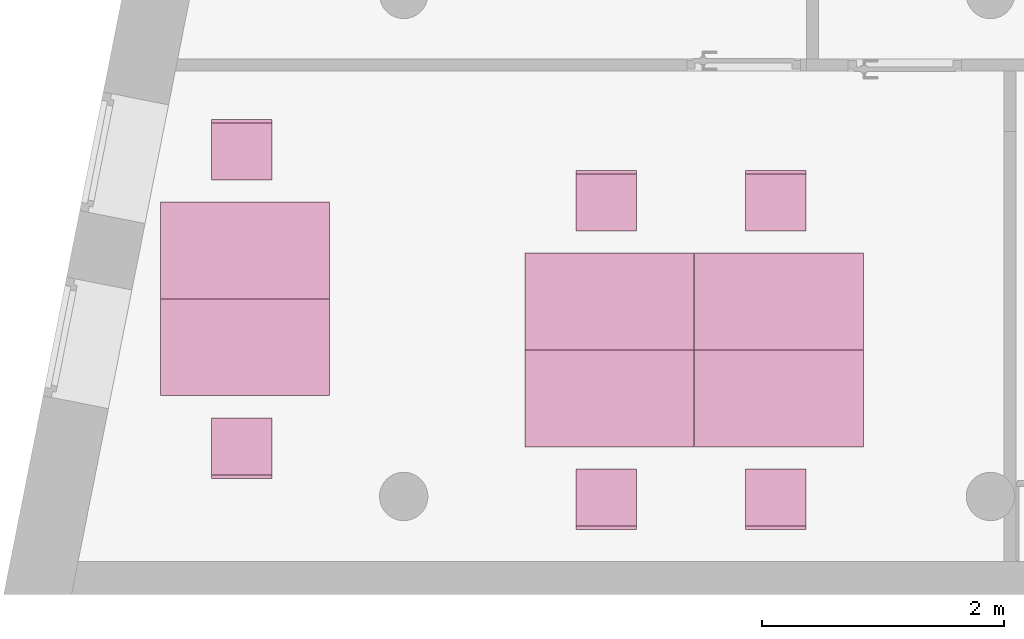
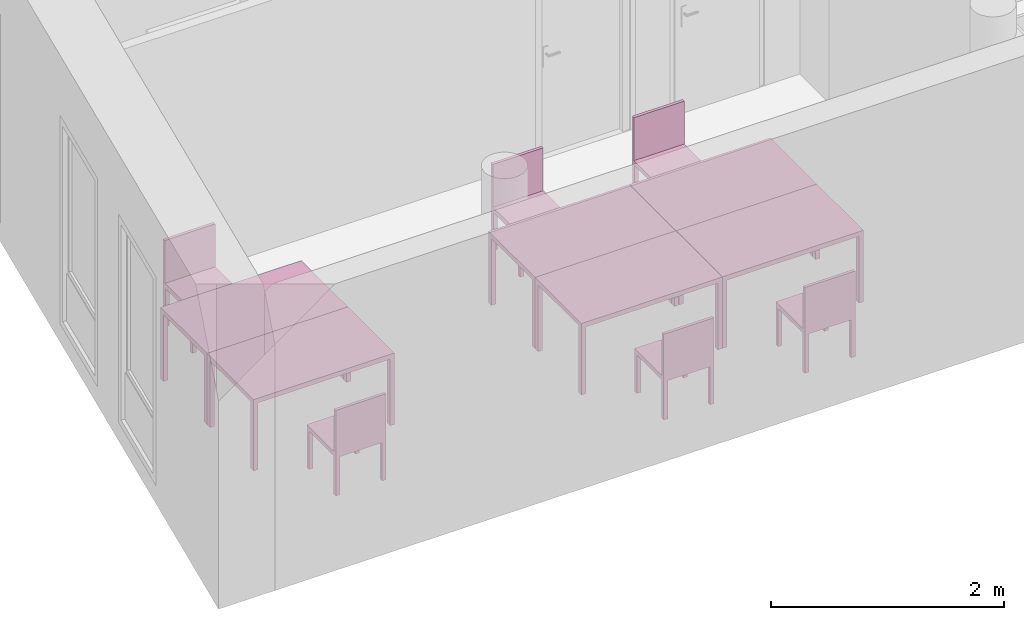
"""IFC4 building model written with IfcOpenShell, lengths in metres."""

from ifc_helpers import new_model, entity, si_unit, converted_unit, derived_unit, frame, origin, place, context, subcontext, project, spatial, faceted_brep, element, save


model = new_model("IFC4")

# Units and contexts
model_context = context("Model", 3, precision=1e-05, world=origin())
body_context = subcontext(model_context, "Body", "Model", "MODEL_VIEW")
ifc_project = project(units=[si_unit("LENGTHUNIT", "METRE"), si_unit("AREAUNIT", "SQUARE_METRE"), si_unit("VOLUMEUNIT", "CUBIC_METRE"), si_unit("MASSUNIT", "GRAM", prefix="KILO"), converted_unit("PLANEANGLEUNIT", "DEGREE", entity("IfcPlaneAngleMeasure", 0.0174532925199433), si_unit("PLANEANGLEUNIT", "RADIAN"), dimensions=[0, 0, 0, 0, 0, 0, 0]), derived_unit("THERMALTRANSMITTANCEUNIT", [(si_unit("POWERUNIT", "WATT"), 1), (si_unit("THERMODYNAMICTEMPERATUREUNIT", "KELVIN"), -1), (si_unit("LENGTHUNIT", "METRE"), -2)]), derived_unit("VOLUMETRICFLOWRATEUNIT", [(si_unit("LENGTHUNIT", "METRE"), 3), (converted_unit("TIMEUNIT", "hour", entity("IfcTimeMeasure", 3600.0), si_unit("TIMEUNIT", "SECOND"), dimensions=[0, 0, 1, 0, 0, 0, 0]), -1), (si_unit("LENGTHUNIT", "METRE"), -1)])], contexts=[model_context])

# Building, storeys
building_placement = place(None, origin())
building = spatial("IfcBuilding", under=ifc_project, at=building_placement, Name="HABITATGE PLURIFAMILIAR", CompositionType="ELEMENT")
storey_1_placement = place(building_placement, frame((0.0, 0.0, 12.27)))
storey_1 = spatial("IfcBuildingStorey", under=building, at=storey_1_placement, Name="PLANTA TERCERA", CompositionType="ELEMENT", Elevation=12.27)
storey_2_placement = place(storey_1_placement, frame((0.0, 0.0, 9.26)))
storey_2 = spatial("IfcBuildingStorey", under=storey_1, at=storey_2_placement, Name="NOU", CompositionType="PARTIAL")

# Furniture
furniture_1_placement = place(storey_2_placement, frame((398.97731256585, 14.4826028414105, -9.3599999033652)))
element("IfcFurniture", 1, at=furniture_1_placement, inside=storey_2, Name="Taula 140X80_P3", context=body_context, shape_type="Brep", body=[
    faceted_brep([(0.04375, 0.750069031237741, 0.0), (0.04375, 0.800069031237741, 0.0), (0.0, 0.800069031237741, 0.0), (0.0, 0.750069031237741, 0.0), (0.04375, 0.800069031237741, 0.7), (0.04375, 0.750069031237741, 0.7), (0.0, 0.750069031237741, 0.7), (0.0, 0.800069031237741, 0.7)], [[[0, 1, 2, 3]], [[4, 5, 6, 7]], [[1, 0, 5, 4]], [[2, 1, 4, 7]], [[3, 2, 7, 6]], [[0, 3, 6, 5]]], orient=[[False], [False], [False], [False], [False], [False]]),
    faceted_brep([(0.04375, 0.0, 0.0), (0.04375, 0.05, 0.0), (0.0, 0.05, 0.0), (0.0, 0.0, 0.0), (0.04375, 0.05, 0.7), (0.04375, 0.0, 0.7), (0.0, 0.0, 0.7), (0.0, 0.05, 0.7)], [[[0, 1, 2, 3]], [[4, 5, 6, 7]], [[1, 0, 5, 4]], [[2, 1, 4, 7]], [[3, 2, 7, 6]], [[0, 3, 6, 5]]], orient=[[False], [False], [False], [False], [False], [False]]),
    faceted_brep([(1.39732768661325, 0.0, 0.7), (1.39732768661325, 0.800069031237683, 0.7), (0.0, 0.800069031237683, 0.7), (0.0, 0.0, 0.7), (1.39732768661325, 0.800069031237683, 0.75), (1.39732768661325, 0.0, 0.75), (0.0, 0.0, 0.75), (0.0, 0.800069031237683, 0.75)], [[[0, 1, 2, 3]], [[4, 5, 6, 7]], [[1, 0, 5, 4]], [[2, 1, 4, 7]], [[3, 2, 7, 6]], [[0, 3, 6, 5]]], orient=[[False], [False], [False], [False], [False], [False]]),
    faceted_brep([(1.39732768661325, 0.750069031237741, 0.0), (1.39732768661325, 0.800069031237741, 0.0), (1.35357768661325, 0.800069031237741, 0.0), (1.35357768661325, 0.750069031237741, 0.0), (1.39732768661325, 0.800069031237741, 0.7), (1.39732768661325, 0.750069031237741, 0.7), (1.35357768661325, 0.750069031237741, 0.7), (1.35357768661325, 0.800069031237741, 0.7)], [[[0, 1, 2, 3]], [[4, 5, 6, 7]], [[1, 0, 5, 4]], [[2, 1, 4, 7]], [[3, 2, 7, 6]], [[0, 3, 6, 5]]], orient=[[False], [False], [False], [False], [False], [False]]),
    faceted_brep([(1.39732768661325, 0.0, 0.0), (1.39732768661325, 0.05, 0.0), (1.35357768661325, 0.05, 0.0), (1.35357768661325, 0.0, 0.0), (1.39732768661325, 0.05, 0.7), (1.39732768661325, 0.0, 0.7), (1.35357768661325, 0.0, 0.7), (1.35357768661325, 0.05, 0.7)], [[[0, 1, 2, 3]], [[4, 5, 6, 7]], [[1, 0, 5, 4]], [[2, 1, 4, 7]], [[3, 2, 7, 6]], [[0, 3, 6, 5]]], orient=[[False], [False], [False], [False], [False], [False]]),
])
furniture_2_placement = place(storey_2_placement, frame((398.97731256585, 15.2826718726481, -9.3599999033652)))
element("IfcFurniture", 2, at=furniture_2_placement, inside=storey_2, Name="Taula 140X80_P3", context=body_context, shape_type="Brep", body=[
    faceted_brep([(0.04375, 0.05, 0.0), (0.0, 0.05, 0.0), (0.0, 0.0, 0.0), (0.04375, 0.0, 0.0), (0.04375, 0.0, 0.7), (0.0, 0.0, 0.7), (0.0, 0.05, 0.7), (0.04375, 0.05, 0.7)], [[[0, 1, 2, 3]], [[4, 5, 6, 7]], [[3, 4, 7, 0]], [[2, 5, 4, 3]], [[1, 6, 5, 2]], [[0, 7, 6, 1]]], orient=[[False], [False], [False], [False], [False], [False]]),
    faceted_brep([(0.04375, 0.800069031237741, 0.0), (0.0, 0.800069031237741, 0.0), (0.0, 0.750069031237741, 0.0), (0.04375, 0.750069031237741, 0.0), (0.04375, 0.750069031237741, 0.7), (0.0, 0.750069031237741, 0.7), (0.0, 0.800069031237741, 0.7), (0.04375, 0.800069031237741, 0.7)], [[[0, 1, 2, 3]], [[4, 5, 6, 7]], [[3, 4, 7, 0]], [[2, 5, 4, 3]], [[1, 6, 5, 2]], [[0, 7, 6, 1]]], orient=[[False], [False], [False], [False], [False], [False]]),
    faceted_brep([(1.39732768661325, 0.800069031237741, 0.7), (0.0, 0.800069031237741, 0.7), (0.0, 0.0, 0.7), (1.39732768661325, 0.0, 0.7), (1.39732768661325, 0.0, 0.75), (0.0, 0.0, 0.75), (0.0, 0.800069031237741, 0.75), (1.39732768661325, 0.800069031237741, 0.75)], [[[0, 1, 2, 3]], [[4, 5, 6, 7]], [[3, 4, 7, 0]], [[2, 5, 4, 3]], [[1, 6, 5, 2]], [[0, 7, 6, 1]]], orient=[[False], [False], [False], [False], [False], [False]]),
    faceted_brep([(1.39732768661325, 0.05, 0.0), (1.35357768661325, 0.05, 0.0), (1.35357768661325, 0.0, 0.0), (1.39732768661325, 0.0, 0.0), (1.39732768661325, 0.0, 0.7), (1.35357768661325, 0.0, 0.7), (1.35357768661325, 0.05, 0.7), (1.39732768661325, 0.05, 0.7)], [[[0, 1, 2, 3]], [[4, 5, 6, 7]], [[3, 4, 7, 0]], [[2, 5, 4, 3]], [[1, 6, 5, 2]], [[0, 7, 6, 1]]], orient=[[False], [False], [False], [False], [False], [False]]),
    faceted_brep([(1.39732768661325, 0.800069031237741, 0.0), (1.35357768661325, 0.800069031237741, 0.0), (1.35357768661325, 0.750069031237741, 0.0), (1.39732768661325, 0.750069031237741, 0.0), (1.39732768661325, 0.750069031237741, 0.7), (1.35357768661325, 0.750069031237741, 0.7), (1.35357768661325, 0.800069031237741, 0.7), (1.39732768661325, 0.800069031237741, 0.7)], [[[0, 1, 2, 3]], [[4, 5, 6, 7]], [[3, 4, 7, 0]], [[2, 5, 4, 3]], [[1, 6, 5, 2]], [[0, 7, 6, 1]]], orient=[[False], [False], [False], [False], [False], [False]]),
])
furniture_3_placement = place(storey_2_placement, frame((401.988710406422, 14.0600117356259, -9.3599999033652)))
element("IfcFurniture", 3, at=furniture_3_placement, inside=storey_2, Name="Taula 140X80_P3", context=body_context, shape_type="Brep", body=[
    faceted_brep([(0.04375, 0.750069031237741, 0.0), (0.04375, 0.800069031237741, 0.0), (0.0, 0.800069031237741, 0.0), (0.0, 0.750069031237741, 0.0), (0.04375, 0.800069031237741, 0.7), (0.04375, 0.750069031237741, 0.7), (0.0, 0.750069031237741, 0.7), (0.0, 0.800069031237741, 0.7)], [[[0, 1, 2, 3]], [[4, 5, 6, 7]], [[1, 0, 5, 4]], [[2, 1, 4, 7]], [[3, 2, 7, 6]], [[0, 3, 6, 5]]], orient=[[False], [False], [False], [False], [False], [False]]),
    faceted_brep([(0.04375, 0.0, 0.0), (0.04375, 0.05, 0.0), (0.0, 0.05, 0.0), (0.0, 0.0, 0.0), (0.04375, 0.05, 0.7), (0.04375, 0.0, 0.7), (0.0, 0.0, 0.7), (0.0, 0.05, 0.7)], [[[0, 1, 2, 3]], [[4, 5, 6, 7]], [[1, 0, 5, 4]], [[2, 1, 4, 7]], [[3, 2, 7, 6]], [[0, 3, 6, 5]]], orient=[[False], [False], [False], [False], [False], [False]]),
    faceted_brep([(1.39732768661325, 0.0, 0.7), (1.39732768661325, 0.800069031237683, 0.7), (0.0, 0.800069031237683, 0.7), (0.0, 0.0, 0.7), (1.39732768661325, 0.800069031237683, 0.75), (1.39732768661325, 0.0, 0.75), (0.0, 0.0, 0.75), (0.0, 0.800069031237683, 0.75)], [[[0, 1, 2, 3]], [[4, 5, 6, 7]], [[1, 0, 5, 4]], [[2, 1, 4, 7]], [[3, 2, 7, 6]], [[0, 3, 6, 5]]], orient=[[False], [False], [False], [False], [False], [False]]),
    faceted_brep([(1.39732768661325, 0.750069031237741, 0.0), (1.39732768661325, 0.800069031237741, 0.0), (1.35357768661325, 0.800069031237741, 0.0), (1.35357768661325, 0.750069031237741, 0.0), (1.39732768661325, 0.800069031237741, 0.7), (1.39732768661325, 0.750069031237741, 0.7), (1.35357768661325, 0.750069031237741, 0.7), (1.35357768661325, 0.800069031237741, 0.7)], [[[0, 1, 2, 3]], [[4, 5, 6, 7]], [[1, 0, 5, 4]], [[2, 1, 4, 7]], [[3, 2, 7, 6]], [[0, 3, 6, 5]]], orient=[[False], [False], [False], [False], [False], [False]]),
    faceted_brep([(1.39732768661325, 0.0, 0.0), (1.39732768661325, 0.05, 0.0), (1.35357768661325, 0.05, 0.0), (1.35357768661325, 0.0, 0.0), (1.39732768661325, 0.05, 0.7), (1.39732768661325, 0.0, 0.7), (1.35357768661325, 0.0, 0.7), (1.35357768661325, 0.05, 0.7)], [[[0, 1, 2, 3]], [[4, 5, 6, 7]], [[1, 0, 5, 4]], [[2, 1, 4, 7]], [[3, 2, 7, 6]], [[0, 3, 6, 5]]], orient=[[False], [False], [False], [False], [False], [False]]),
])
furniture_4_placement = place(storey_2_placement, frame((401.988710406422, 14.8600807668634, -9.3599999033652)))
element("IfcFurniture", 4, at=furniture_4_placement, inside=storey_2, Name="Taula 140X80_P3", context=body_context, shape_type="Brep", body=[
    faceted_brep([(0.04375, 0.05, 0.0), (0.0, 0.05, 0.0), (0.0, 0.0, 0.0), (0.04375, 0.0, 0.0), (0.04375, 0.0, 0.7), (0.0, 0.0, 0.7), (0.0, 0.05, 0.7), (0.04375, 0.05, 0.7)], [[[0, 1, 2, 3]], [[4, 5, 6, 7]], [[3, 4, 7, 0]], [[2, 5, 4, 3]], [[1, 6, 5, 2]], [[0, 7, 6, 1]]], orient=[[False], [False], [False], [False], [False], [False]]),
    faceted_brep([(0.04375, 0.800069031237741, 0.0), (0.0, 0.800069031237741, 0.0), (0.0, 0.750069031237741, 0.0), (0.04375, 0.750069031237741, 0.0), (0.04375, 0.750069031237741, 0.7), (0.0, 0.750069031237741, 0.7), (0.0, 0.800069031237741, 0.7), (0.04375, 0.800069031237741, 0.7)], [[[0, 1, 2, 3]], [[4, 5, 6, 7]], [[3, 4, 7, 0]], [[2, 5, 4, 3]], [[1, 6, 5, 2]], [[0, 7, 6, 1]]], orient=[[False], [False], [False], [False], [False], [False]]),
    faceted_brep([(1.39732768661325, 0.800069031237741, 0.7), (0.0, 0.800069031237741, 0.7), (0.0, 0.0, 0.7), (1.39732768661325, 0.0, 0.7), (1.39732768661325, 0.0, 0.75), (0.0, 0.0, 0.75), (0.0, 0.800069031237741, 0.75), (1.39732768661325, 0.800069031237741, 0.75)], [[[0, 1, 2, 3]], [[4, 5, 6, 7]], [[3, 4, 7, 0]], [[2, 5, 4, 3]], [[1, 6, 5, 2]], [[0, 7, 6, 1]]], orient=[[False], [False], [False], [False], [False], [False]]),
    faceted_brep([(1.39732768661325, 0.05, 0.0), (1.35357768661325, 0.05, 0.0), (1.35357768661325, 0.0, 0.0), (1.39732768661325, 0.0, 0.0), (1.39732768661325, 0.0, 0.7), (1.35357768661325, 0.0, 0.7), (1.35357768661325, 0.05, 0.7), (1.39732768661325, 0.05, 0.7)], [[[0, 1, 2, 3]], [[4, 5, 6, 7]], [[3, 4, 7, 0]], [[2, 5, 4, 3]], [[1, 6, 5, 2]], [[0, 7, 6, 1]]], orient=[[False], [False], [False], [False], [False], [False]]),
    faceted_brep([(1.39732768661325, 0.800069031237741, 0.0), (1.35357768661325, 0.800069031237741, 0.0), (1.35357768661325, 0.750069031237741, 0.0), (1.39732768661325, 0.750069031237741, 0.0), (1.39732768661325, 0.750069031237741, 0.7), (1.35357768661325, 0.750069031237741, 0.7), (1.35357768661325, 0.800069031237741, 0.7), (1.39732768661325, 0.800069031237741, 0.7)], [[[0, 1, 2, 3]], [[4, 5, 6, 7]], [[3, 4, 7, 0]], [[2, 5, 4, 3]], [[1, 6, 5, 2]], [[0, 7, 6, 1]]], orient=[[False], [False], [False], [False], [False], [False]]),
])
furniture_5_placement = place(storey_2_placement, frame((403.389889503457, 14.0600117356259, -9.3599999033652)))
element("IfcFurniture", 5, at=furniture_5_placement, inside=storey_2, Name="Taula 140X80_P3", context=body_context, shape_type="Brep", body=[
    faceted_brep([(0.04375, 0.750069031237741, 0.0), (0.04375, 0.800069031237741, 0.0), (0.0, 0.800069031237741, 0.0), (0.0, 0.750069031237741, 0.0), (0.04375, 0.800069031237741, 0.7), (0.04375, 0.750069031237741, 0.7), (0.0, 0.750069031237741, 0.7), (0.0, 0.800069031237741, 0.7)], [[[0, 1, 2, 3]], [[4, 5, 6, 7]], [[1, 0, 5, 4]], [[2, 1, 4, 7]], [[3, 2, 7, 6]], [[0, 3, 6, 5]]], orient=[[False], [False], [False], [False], [False], [False]]),
    faceted_brep([(0.04375, 0.0, 0.0), (0.04375, 0.05, 0.0), (0.0, 0.05, 0.0), (0.0, 0.0, 0.0), (0.04375, 0.05, 0.7), (0.04375, 0.0, 0.7), (0.0, 0.0, 0.7), (0.0, 0.05, 0.7)], [[[0, 1, 2, 3]], [[4, 5, 6, 7]], [[1, 0, 5, 4]], [[2, 1, 4, 7]], [[3, 2, 7, 6]], [[0, 3, 6, 5]]], orient=[[False], [False], [False], [False], [False], [False]]),
    faceted_brep([(1.39732768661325, 0.0, 0.7), (1.39732768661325, 0.800069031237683, 0.7), (0.0, 0.800069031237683, 0.7), (0.0, 0.0, 0.7), (1.39732768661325, 0.800069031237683, 0.75), (1.39732768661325, 0.0, 0.75), (0.0, 0.0, 0.75), (0.0, 0.800069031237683, 0.75)], [[[0, 1, 2, 3]], [[4, 5, 6, 7]], [[1, 0, 5, 4]], [[2, 1, 4, 7]], [[3, 2, 7, 6]], [[0, 3, 6, 5]]], orient=[[False], [False], [False], [False], [False], [False]]),
    faceted_brep([(1.39732768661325, 0.750069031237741, 0.0), (1.39732768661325, 0.800069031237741, 0.0), (1.35357768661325, 0.800069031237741, 0.0), (1.35357768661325, 0.750069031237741, 0.0), (1.39732768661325, 0.800069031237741, 0.7), (1.39732768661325, 0.750069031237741, 0.7), (1.35357768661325, 0.750069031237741, 0.7), (1.35357768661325, 0.800069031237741, 0.7)], [[[0, 1, 2, 3]], [[4, 5, 6, 7]], [[1, 0, 5, 4]], [[2, 1, 4, 7]], [[3, 2, 7, 6]], [[0, 3, 6, 5]]], orient=[[False], [False], [False], [False], [False], [False]]),
    faceted_brep([(1.39732768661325, 0.0, 0.0), (1.39732768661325, 0.05, 0.0), (1.35357768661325, 0.05, 0.0), (1.35357768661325, 0.0, 0.0), (1.39732768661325, 0.05, 0.7), (1.39732768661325, 0.0, 0.7), (1.35357768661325, 0.0, 0.7), (1.35357768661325, 0.05, 0.7)], [[[0, 1, 2, 3]], [[4, 5, 6, 7]], [[1, 0, 5, 4]], [[2, 1, 4, 7]], [[3, 2, 7, 6]], [[0, 3, 6, 5]]], orient=[[False], [False], [False], [False], [False], [False]]),
])
furniture_6_placement = place(storey_2_placement, frame((403.389889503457, 14.8600807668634, -9.3599999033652)))
element("IfcFurniture", 6, at=furniture_6_placement, inside=storey_2, Name="Taula 140X80_P3", context=body_context, shape_type="Brep", body=[
    faceted_brep([(0.04375, 0.05, 0.0), (0.0, 0.05, 0.0), (0.0, 0.0, 0.0), (0.04375, 0.0, 0.0), (0.04375, 0.0, 0.7), (0.0, 0.0, 0.7), (0.0, 0.05, 0.7), (0.04375, 0.05, 0.7)], [[[0, 1, 2, 3]], [[4, 5, 6, 7]], [[3, 4, 7, 0]], [[2, 5, 4, 3]], [[1, 6, 5, 2]], [[0, 7, 6, 1]]], orient=[[False], [False], [False], [False], [False], [False]]),
    faceted_brep([(0.04375, 0.800069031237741, 0.0), (0.0, 0.800069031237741, 0.0), (0.0, 0.750069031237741, 0.0), (0.04375, 0.750069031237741, 0.0), (0.04375, 0.750069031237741, 0.7), (0.0, 0.750069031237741, 0.7), (0.0, 0.800069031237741, 0.7), (0.04375, 0.800069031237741, 0.7)], [[[0, 1, 2, 3]], [[4, 5, 6, 7]], [[3, 4, 7, 0]], [[2, 5, 4, 3]], [[1, 6, 5, 2]], [[0, 7, 6, 1]]], orient=[[False], [False], [False], [False], [False], [False]]),
    faceted_brep([(1.39732768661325, 0.800069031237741, 0.7), (0.0, 0.800069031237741, 0.7), (0.0, 0.0, 0.7), (1.39732768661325, 0.0, 0.7), (1.39732768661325, 0.0, 0.75), (0.0, 0.0, 0.75), (0.0, 0.800069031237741, 0.75), (1.39732768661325, 0.800069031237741, 0.75)], [[[0, 1, 2, 3]], [[4, 5, 6, 7]], [[3, 4, 7, 0]], [[2, 5, 4, 3]], [[1, 6, 5, 2]], [[0, 7, 6, 1]]], orient=[[False], [False], [False], [False], [False], [False]]),
    faceted_brep([(1.39732768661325, 0.05, 0.0), (1.35357768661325, 0.05, 0.0), (1.35357768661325, 0.0, 0.0), (1.39732768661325, 0.0, 0.0), (1.39732768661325, 0.0, 0.7), (1.35357768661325, 0.0, 0.7), (1.35357768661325, 0.05, 0.7), (1.39732768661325, 0.05, 0.7)], [[[0, 1, 2, 3]], [[4, 5, 6, 7]], [[3, 4, 7, 0]], [[2, 5, 4, 3]], [[1, 6, 5, 2]], [[0, 7, 6, 1]]], orient=[[False], [False], [False], [False], [False], [False]]),
    faceted_brep([(1.39732768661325, 0.800069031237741, 0.0), (1.35357768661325, 0.800069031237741, 0.0), (1.35357768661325, 0.750069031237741, 0.0), (1.39732768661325, 0.750069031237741, 0.0), (1.39732768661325, 0.750069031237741, 0.7), (1.35357768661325, 0.750069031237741, 0.7), (1.35357768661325, 0.800069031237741, 0.7), (1.39732768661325, 0.800069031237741, 0.7)], [[[0, 1, 2, 3]], [[4, 5, 6, 7]], [[3, 4, 7, 0]], [[2, 5, 4, 3]], [[1, 6, 5, 2]], [[0, 7, 6, 1]]], orient=[[False], [False], [False], [False], [False], [False]]),
])
furniture_7_placement = place(storey_2_placement, frame((399.398472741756, 16.2668830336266, -9.3546338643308)))
element("IfcFurniture", 7, at=furniture_7_placement, inside=storey_2, Name="Cadira d'Oficina_P3", context=body_context, shape_type="Brep", body=[
    faceted_brep([(0.5, 0.0, 0.4), (0.5, 0.500000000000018, 0.4), (0.0, 0.500000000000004, 0.4), (0.0, 0.0, 0.4), (0.5, 0.500000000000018, 0.45), (0.5, 0.0, 0.45), (0.0, 0.0, 0.45), (0.0, 0.500000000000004, 0.45)], [[[0, 1, 2, 3]], [[4, 5, 6, 7]], [[1, 0, 5, 4]], [[2, 1, 4, 7]], [[3, 2, 7, 6]], [[0, 3, 6, 5]]], orient=[[False], [False], [False], [False], [False], [False]]),
    faceted_brep([(0.0, 0.460000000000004, 0.0), (0.04, 0.460000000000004, 0.0), (0.04, 0.500000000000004, 0.0), (0.0, 0.500000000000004, 0.0), (0.04, 0.460000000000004, 0.4), (0.0, 0.460000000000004, 0.4), (0.0, 0.500000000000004, 0.4), (0.04, 0.500000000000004, 0.4)], [[[0, 1, 2, 3]], [[4, 5, 6, 7]], [[1, 0, 5, 4]], [[2, 1, 4, 7]], [[3, 2, 7, 6]], [[0, 3, 6, 5]]], orient=[[False], [False], [False], [False], [False], [False]]),
    faceted_brep([(0.0, 0.0, 0.0), (0.04, 0.0, 0.0), (0.04, 0.0400000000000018, 0.0), (0.0, 0.04, 0.0), (0.04, 0.0, 0.4), (0.0, 0.0, 0.4), (0.0, 0.04, 0.4), (0.04, 0.0400000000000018, 0.4)], [[[0, 1, 2, 3]], [[4, 5, 6, 7]], [[1, 0, 5, 4]], [[2, 1, 4, 7]], [[3, 2, 7, 6]], [[0, 3, 6, 5]]], orient=[[False], [False], [False], [False], [False], [False]]),
    faceted_brep([(0.46, 0.460000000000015, 0.0), (0.5, 0.460000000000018, 0.0), (0.5, 0.500000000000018, 0.0), (0.46, 0.500000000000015, 0.0), (0.5, 0.460000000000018, 0.4), (0.46, 0.460000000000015, 0.4), (0.46, 0.500000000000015, 0.4), (0.5, 0.500000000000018, 0.4)], [[[0, 1, 2, 3]], [[4, 5, 6, 7]], [[1, 0, 5, 4]], [[2, 1, 4, 7]], [[3, 2, 7, 6]], [[0, 3, 6, 5]]], orient=[[False], [False], [False], [False], [False], [False]]),
    faceted_brep([(0.46, 0.0, 0.0), (0.5, 0.0, 0.0), (0.5, 0.0400000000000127, 0.0), (0.46, 0.0400000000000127, 0.0), (0.5, 0.0, 0.4), (0.46, 0.0, 0.4), (0.46, 0.0400000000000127, 0.4), (0.5, 0.0400000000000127, 0.4)], [[[0, 1, 2, 3]], [[4, 5, 6, 7]], [[1, 0, 5, 4]], [[2, 1, 4, 7]], [[3, 2, 7, 6]], [[0, 3, 6, 5]]], orient=[[False], [False], [False], [False], [False], [False]]),
    faceted_brep([(0.0, 0.470000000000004, 0.45), (0.5, 0.470000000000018, 0.45), (0.5, 0.500000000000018, 0.45), (0.0, 0.500000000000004, 0.45), (0.5, 0.470000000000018, 0.9), (0.0, 0.470000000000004, 0.9), (0.0, 0.500000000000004, 0.9), (0.5, 0.500000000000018, 0.9)], [[[0, 1, 2, 3]], [[4, 5, 6, 7]], [[1, 0, 5, 4]], [[2, 1, 4, 7]], [[3, 2, 7, 6]], [[0, 3, 6, 5]]], orient=[[False], [False], [False], [False], [False], [False]]),
])
furniture_8_placement = place(storey_2_placement, frame((399.398472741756, 13.7984607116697, -9.35590342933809)))
element("IfcFurniture", 8, at=furniture_8_placement, inside=storey_2, Name="Cadira d'Oficina_P3", context=body_context, shape_type="Brep", body=[
    faceted_brep([(0.5, 0.500000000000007, 0.4), (0.0, 0.500000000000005, 0.4), (0.0, 0.0, 0.4), (0.5, 0.0, 0.4), (0.5, 0.0, 0.45), (0.0, 0.0, 0.45), (0.0, 0.500000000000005, 0.45), (0.5, 0.500000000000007, 0.45)], [[[0, 1, 2, 3]], [[4, 5, 6, 7]], [[3, 4, 7, 0]], [[2, 5, 4, 3]], [[1, 6, 5, 2]], [[0, 7, 6, 1]]], orient=[[False], [False], [False], [False], [False], [False]]),
    faceted_brep([(0.0, 0.0400000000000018, 0.0), (0.0, 0.0, 0.0), (0.04, 0.0, 0.0), (0.04, 0.0400000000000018, 0.0), (0.04, 0.0400000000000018, 0.4), (0.04, 0.0, 0.4), (0.0, 0.0, 0.4), (0.0, 0.0400000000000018, 0.4)], [[[0, 1, 2, 3]], [[4, 5, 6, 7]], [[3, 4, 7, 0]], [[2, 5, 4, 3]], [[1, 6, 5, 2]], [[0, 7, 6, 1]]], orient=[[False], [False], [False], [False], [False], [False]]),
    faceted_brep([(0.0, 0.500000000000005, 0.0), (0.0, 0.460000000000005, 0.0), (0.04, 0.460000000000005, 0.0), (0.04, 0.500000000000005, 0.0), (0.04, 0.500000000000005, 0.4), (0.04, 0.460000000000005, 0.4), (0.0, 0.460000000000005, 0.4), (0.0, 0.500000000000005, 0.4)], [[[0, 1, 2, 3]], [[4, 5, 6, 7]], [[3, 4, 7, 0]], [[2, 5, 4, 3]], [[1, 6, 5, 2]], [[0, 7, 6, 1]]], orient=[[False], [False], [False], [False], [False], [False]]),
    faceted_brep([(0.46, 0.0400000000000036, 0.0), (0.46, 0.0, 0.0), (0.5, 0.0, 0.0), (0.5, 0.0400000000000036, 0.0), (0.5, 0.0400000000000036, 0.4), (0.5, 0.0, 0.4), (0.46, 0.0, 0.4), (0.46, 0.0400000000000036, 0.4)], [[[0, 1, 2, 3]], [[4, 5, 6, 7]], [[3, 4, 7, 0]], [[2, 5, 4, 3]], [[1, 6, 5, 2]], [[0, 7, 6, 1]]], orient=[[False], [False], [False], [False], [False], [False]]),
    faceted_brep([(0.46, 0.500000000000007, 0.0), (0.46, 0.460000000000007, 0.0), (0.5, 0.460000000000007, 0.0), (0.5, 0.500000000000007, 0.0), (0.5, 0.500000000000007, 0.4), (0.5, 0.460000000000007, 0.4), (0.46, 0.460000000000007, 0.4), (0.46, 0.500000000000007, 0.4)], [[[0, 1, 2, 3]], [[4, 5, 6, 7]], [[3, 4, 7, 0]], [[2, 5, 4, 3]], [[1, 6, 5, 2]], [[0, 7, 6, 1]]], orient=[[False], [False], [False], [False], [False], [False]]),
    faceted_brep([(0.0, 0.0300000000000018, 0.45), (0.0, 0.0, 0.45), (0.5, 0.0, 0.45), (0.5, 0.0300000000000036, 0.45), (0.5, 0.0300000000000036, 0.9), (0.5, 0.0, 0.9), (0.0, 0.0, 0.9), (0.0, 0.0300000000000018, 0.9)], [[[0, 1, 2, 3]], [[4, 5, 6, 7]], [[3, 4, 7, 0]], [[2, 5, 4, 3]], [[1, 6, 5, 2]], [[0, 7, 6, 1]]], orient=[[False], [False], [False], [False], [False], [False]]),
])
furniture_9_placement = place(storey_2_placement, frame((402.409870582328, 15.8442919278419, -9.3546338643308)))
element("IfcFurniture", 9, at=furniture_9_placement, inside=storey_2, Name="Cadira d'Oficina_P3", context=body_context, shape_type="Brep", body=[
    faceted_brep([(0.5, 0.0, 0.4), (0.5, 0.500000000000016, 0.4), (0.0, 0.500000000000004, 0.4), (0.0, 0.0, 0.4), (0.5, 0.500000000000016, 0.45), (0.5, 0.0, 0.45), (0.0, 0.0, 0.45), (0.0, 0.500000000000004, 0.45)], [[[0, 1, 2, 3]], [[4, 5, 6, 7]], [[1, 0, 5, 4]], [[2, 1, 4, 7]], [[3, 2, 7, 6]], [[0, 3, 6, 5]]], orient=[[False], [False], [False], [False], [False], [False]]),
    faceted_brep([(0.0, 0.460000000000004, 0.0), (0.04, 0.460000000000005, 0.0), (0.04, 0.500000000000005, 0.0), (0.0, 0.500000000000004, 0.0), (0.04, 0.460000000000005, 0.4), (0.0, 0.460000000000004, 0.4), (0.0, 0.500000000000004, 0.4), (0.04, 0.500000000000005, 0.4)], [[[0, 1, 2, 3]], [[4, 5, 6, 7]], [[1, 0, 5, 4]], [[2, 1, 4, 7]], [[3, 2, 7, 6]], [[0, 3, 6, 5]]], orient=[[False], [False], [False], [False], [False], [False]]),
    faceted_brep([(0.0, 0.0, 0.0), (0.04, 0.0, 0.0), (0.04, 0.0400000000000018, 0.0), (0.0, 0.04, 0.0), (0.04, 0.0, 0.4), (0.0, 0.0, 0.4), (0.0, 0.04, 0.4), (0.04, 0.0400000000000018, 0.4)], [[[0, 1, 2, 3]], [[4, 5, 6, 7]], [[1, 0, 5, 4]], [[2, 1, 4, 7]], [[3, 2, 7, 6]], [[0, 3, 6, 5]]], orient=[[False], [False], [False], [False], [False], [False]]),
    faceted_brep([(0.46, 0.460000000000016, 0.0), (0.5, 0.460000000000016, 0.0), (0.5, 0.500000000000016, 0.0), (0.46, 0.500000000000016, 0.0), (0.5, 0.460000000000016, 0.4), (0.46, 0.460000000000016, 0.4), (0.46, 0.500000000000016, 0.4), (0.5, 0.500000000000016, 0.4)], [[[0, 1, 2, 3]], [[4, 5, 6, 7]], [[1, 0, 5, 4]], [[2, 1, 4, 7]], [[3, 2, 7, 6]], [[0, 3, 6, 5]]], orient=[[False], [False], [False], [False], [False], [False]]),
    faceted_brep([(0.46, 0.0, 0.0), (0.5, 0.0, 0.0), (0.5, 0.0400000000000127, 0.0), (0.46, 0.0400000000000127, 0.0), (0.5, 0.0, 0.4), (0.46, 0.0, 0.4), (0.46, 0.0400000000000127, 0.4), (0.5, 0.0400000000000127, 0.4)], [[[0, 1, 2, 3]], [[4, 5, 6, 7]], [[1, 0, 5, 4]], [[2, 1, 4, 7]], [[3, 2, 7, 6]], [[0, 3, 6, 5]]], orient=[[False], [False], [False], [False], [False], [False]]),
    faceted_brep([(0.0, 0.470000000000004, 0.45), (0.5, 0.470000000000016, 0.45), (0.5, 0.500000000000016, 0.45), (0.0, 0.500000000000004, 0.45), (0.5, 0.470000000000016, 0.9), (0.0, 0.470000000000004, 0.9), (0.0, 0.500000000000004, 0.9), (0.5, 0.500000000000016, 0.9)], [[[0, 1, 2, 3]], [[4, 5, 6, 7]], [[1, 0, 5, 4]], [[2, 1, 4, 7]], [[3, 2, 7, 6]], [[0, 3, 6, 5]]], orient=[[False], [False], [False], [False], [False], [False]]),
])
furniture_10_placement = place(storey_2_placement, frame((402.409870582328, 13.3758696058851, -9.35590342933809)))
element("IfcFurniture", 10, at=furniture_10_placement, inside=storey_2, Name="Cadira d'Oficina_P3", context=body_context, shape_type="Brep", body=[
    faceted_brep([(0.5, 0.500000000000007, 0.4), (0.0, 0.500000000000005, 0.4), (0.0, 0.0, 0.4), (0.5, 0.0, 0.4), (0.5, 0.0, 0.45), (0.0, 0.0, 0.45), (0.0, 0.500000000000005, 0.45), (0.5, 0.500000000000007, 0.45)], [[[0, 1, 2, 3]], [[4, 5, 6, 7]], [[3, 4, 7, 0]], [[2, 5, 4, 3]], [[1, 6, 5, 2]], [[0, 7, 6, 1]]], orient=[[False], [False], [False], [False], [False], [False]]),
    faceted_brep([(0.0, 0.0400000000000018, 0.0), (0.0, 0.0, 0.0), (0.04, 0.0, 0.0), (0.04, 0.0400000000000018, 0.0), (0.04, 0.0400000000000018, 0.4), (0.04, 0.0, 0.4), (0.0, 0.0, 0.4), (0.0, 0.0400000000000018, 0.4)], [[[0, 1, 2, 3]], [[4, 5, 6, 7]], [[3, 4, 7, 0]], [[2, 5, 4, 3]], [[1, 6, 5, 2]], [[0, 7, 6, 1]]], orient=[[False], [False], [False], [False], [False], [False]]),
    faceted_brep([(0.0, 0.500000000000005, 0.0), (0.0, 0.460000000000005, 0.0), (0.04, 0.460000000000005, 0.0), (0.04, 0.500000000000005, 0.0), (0.04, 0.500000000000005, 0.4), (0.04, 0.460000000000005, 0.4), (0.0, 0.460000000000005, 0.4), (0.0, 0.500000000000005, 0.4)], [[[0, 1, 2, 3]], [[4, 5, 6, 7]], [[3, 4, 7, 0]], [[2, 5, 4, 3]], [[1, 6, 5, 2]], [[0, 7, 6, 1]]], orient=[[False], [False], [False], [False], [False], [False]]),
    faceted_brep([(0.46, 0.0400000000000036, 0.0), (0.46, 0.0, 0.0), (0.5, 0.0, 0.0), (0.5, 0.0400000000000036, 0.0), (0.5, 0.0400000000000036, 0.4), (0.5, 0.0, 0.4), (0.46, 0.0, 0.4), (0.46, 0.0400000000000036, 0.4)], [[[0, 1, 2, 3]], [[4, 5, 6, 7]], [[3, 4, 7, 0]], [[2, 5, 4, 3]], [[1, 6, 5, 2]], [[0, 7, 6, 1]]], orient=[[False], [False], [False], [False], [False], [False]]),
    faceted_brep([(0.46, 0.500000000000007, 0.0), (0.46, 0.460000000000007, 0.0), (0.5, 0.460000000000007, 0.0), (0.5, 0.500000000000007, 0.0), (0.5, 0.500000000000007, 0.4), (0.5, 0.460000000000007, 0.4), (0.46, 0.460000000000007, 0.4), (0.46, 0.500000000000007, 0.4)], [[[0, 1, 2, 3]], [[4, 5, 6, 7]], [[3, 4, 7, 0]], [[2, 5, 4, 3]], [[1, 6, 5, 2]], [[0, 7, 6, 1]]], orient=[[False], [False], [False], [False], [False], [False]]),
    faceted_brep([(0.0, 0.0300000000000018, 0.45), (0.0, 0.0, 0.45), (0.5, 0.0, 0.45), (0.5, 0.0300000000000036, 0.45), (0.5, 0.0300000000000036, 0.9), (0.5, 0.0, 0.9), (0.0, 0.0, 0.9), (0.0, 0.0300000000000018, 0.9)], [[[0, 1, 2, 3]], [[4, 5, 6, 7]], [[3, 4, 7, 0]], [[2, 5, 4, 3]], [[1, 6, 5, 2]], [[0, 7, 6, 1]]], orient=[[False], [False], [False], [False], [False], [False]]),
])
furniture_11_placement = place(storey_2_placement, frame((403.811049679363, 13.3758696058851, -9.35590342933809)))
element("IfcFurniture", 11, at=furniture_11_placement, inside=storey_2, Name="Cadira d'Oficina_P3", context=body_context, shape_type="Brep", body=[
    faceted_brep([(0.5, 0.500000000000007, 0.4), (0.0, 0.500000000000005, 0.4), (0.0, 0.0, 0.4), (0.5, 0.0, 0.4), (0.5, 0.0, 0.45), (0.0, 0.0, 0.45), (0.0, 0.500000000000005, 0.45), (0.5, 0.500000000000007, 0.45)], [[[0, 1, 2, 3]], [[4, 5, 6, 7]], [[3, 4, 7, 0]], [[2, 5, 4, 3]], [[1, 6, 5, 2]], [[0, 7, 6, 1]]], orient=[[False], [False], [False], [False], [False], [False]]),
    faceted_brep([(0.0, 0.0400000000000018, 0.0), (0.0, 0.0, 0.0), (0.04, 0.0, 0.0), (0.04, 0.0400000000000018, 0.0), (0.04, 0.0400000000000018, 0.4), (0.04, 0.0, 0.4), (0.0, 0.0, 0.4), (0.0, 0.0400000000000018, 0.4)], [[[0, 1, 2, 3]], [[4, 5, 6, 7]], [[3, 4, 7, 0]], [[2, 5, 4, 3]], [[1, 6, 5, 2]], [[0, 7, 6, 1]]], orient=[[False], [False], [False], [False], [False], [False]]),
    faceted_brep([(0.0, 0.500000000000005, 0.0), (0.0, 0.460000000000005, 0.0), (0.04, 0.460000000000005, 0.0), (0.04, 0.500000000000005, 0.0), (0.04, 0.500000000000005, 0.4), (0.04, 0.460000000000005, 0.4), (0.0, 0.460000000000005, 0.4), (0.0, 0.500000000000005, 0.4)], [[[0, 1, 2, 3]], [[4, 5, 6, 7]], [[3, 4, 7, 0]], [[2, 5, 4, 3]], [[1, 6, 5, 2]], [[0, 7, 6, 1]]], orient=[[False], [False], [False], [False], [False], [False]]),
    faceted_brep([(0.46, 0.0400000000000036, 0.0), (0.46, 0.0, 0.0), (0.5, 0.0, 0.0), (0.5, 0.0400000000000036, 0.0), (0.5, 0.0400000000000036, 0.4), (0.5, 0.0, 0.4), (0.46, 0.0, 0.4), (0.46, 0.0400000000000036, 0.4)], [[[0, 1, 2, 3]], [[4, 5, 6, 7]], [[3, 4, 7, 0]], [[2, 5, 4, 3]], [[1, 6, 5, 2]], [[0, 7, 6, 1]]], orient=[[False], [False], [False], [False], [False], [False]]),
    faceted_brep([(0.46, 0.500000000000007, 0.0), (0.46, 0.460000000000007, 0.0), (0.5, 0.460000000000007, 0.0), (0.5, 0.500000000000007, 0.0), (0.5, 0.500000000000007, 0.4), (0.5, 0.460000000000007, 0.4), (0.46, 0.460000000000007, 0.4), (0.46, 0.500000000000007, 0.4)], [[[0, 1, 2, 3]], [[4, 5, 6, 7]], [[3, 4, 7, 0]], [[2, 5, 4, 3]], [[1, 6, 5, 2]], [[0, 7, 6, 1]]], orient=[[False], [False], [False], [False], [False], [False]]),
    faceted_brep([(0.0, 0.0300000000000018, 0.45), (0.0, 0.0, 0.45), (0.5, 0.0, 0.45), (0.5, 0.0300000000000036, 0.45), (0.5, 0.0300000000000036, 0.9), (0.5, 0.0, 0.9), (0.0, 0.0, 0.9), (0.0, 0.0300000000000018, 0.9)], [[[0, 1, 2, 3]], [[4, 5, 6, 7]], [[3, 4, 7, 0]], [[2, 5, 4, 3]], [[1, 6, 5, 2]], [[0, 7, 6, 1]]], orient=[[False], [False], [False], [False], [False], [False]]),
])
furniture_12_placement = place(storey_2_placement, frame((403.811049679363, 15.8442919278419, -9.3546338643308)))
element("IfcFurniture", 12, at=furniture_12_placement, inside=storey_2, Name="Cadira d'Oficina_P3", context=body_context, shape_type="Brep", body=[
    faceted_brep([(0.5, 0.0, 0.4), (0.5, 0.500000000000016, 0.4), (0.0, 0.500000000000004, 0.4), (0.0, 0.0, 0.4), (0.5, 0.500000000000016, 0.45), (0.5, 0.0, 0.45), (0.0, 0.0, 0.45), (0.0, 0.500000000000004, 0.45)], [[[0, 1, 2, 3]], [[4, 5, 6, 7]], [[1, 0, 5, 4]], [[2, 1, 4, 7]], [[3, 2, 7, 6]], [[0, 3, 6, 5]]], orient=[[False], [False], [False], [False], [False], [False]]),
    faceted_brep([(0.0, 0.460000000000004, 0.0), (0.04, 0.460000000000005, 0.0), (0.04, 0.500000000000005, 0.0), (0.0, 0.500000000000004, 0.0), (0.04, 0.460000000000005, 0.4), (0.0, 0.460000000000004, 0.4), (0.0, 0.500000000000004, 0.4), (0.04, 0.500000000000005, 0.4)], [[[0, 1, 2, 3]], [[4, 5, 6, 7]], [[1, 0, 5, 4]], [[2, 1, 4, 7]], [[3, 2, 7, 6]], [[0, 3, 6, 5]]], orient=[[False], [False], [False], [False], [False], [False]]),
    faceted_brep([(0.0, 0.0, 0.0), (0.04, 0.0, 0.0), (0.04, 0.0400000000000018, 0.0), (0.0, 0.04, 0.0), (0.04, 0.0, 0.4), (0.0, 0.0, 0.4), (0.0, 0.04, 0.4), (0.04, 0.0400000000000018, 0.4)], [[[0, 1, 2, 3]], [[4, 5, 6, 7]], [[1, 0, 5, 4]], [[2, 1, 4, 7]], [[3, 2, 7, 6]], [[0, 3, 6, 5]]], orient=[[False], [False], [False], [False], [False], [False]]),
    faceted_brep([(0.46, 0.460000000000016, 0.0), (0.5, 0.460000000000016, 0.0), (0.5, 0.500000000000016, 0.0), (0.46, 0.500000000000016, 0.0), (0.5, 0.460000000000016, 0.4), (0.46, 0.460000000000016, 0.4), (0.46, 0.500000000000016, 0.4), (0.5, 0.500000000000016, 0.4)], [[[0, 1, 2, 3]], [[4, 5, 6, 7]], [[1, 0, 5, 4]], [[2, 1, 4, 7]], [[3, 2, 7, 6]], [[0, 3, 6, 5]]], orient=[[False], [False], [False], [False], [False], [False]]),
    faceted_brep([(0.46, 0.0, 0.0), (0.5, 0.0, 0.0), (0.5, 0.0400000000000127, 0.0), (0.46, 0.0400000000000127, 0.0), (0.5, 0.0, 0.4), (0.46, 0.0, 0.4), (0.46, 0.0400000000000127, 0.4), (0.5, 0.0400000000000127, 0.4)], [[[0, 1, 2, 3]], [[4, 5, 6, 7]], [[1, 0, 5, 4]], [[2, 1, 4, 7]], [[3, 2, 7, 6]], [[0, 3, 6, 5]]], orient=[[False], [False], [False], [False], [False], [False]]),
    faceted_brep([(0.0, 0.470000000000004, 0.45), (0.5, 0.470000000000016, 0.45), (0.5, 0.500000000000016, 0.45), (0.0, 0.500000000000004, 0.45), (0.5, 0.470000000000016, 0.9), (0.0, 0.470000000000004, 0.9), (0.0, 0.500000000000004, 0.9), (0.5, 0.500000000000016, 0.9)], [[[0, 1, 2, 3]], [[4, 5, 6, 7]], [[1, 0, 5, 4]], [[2, 1, 4, 7]], [[3, 2, 7, 6]], [[0, 3, 6, 5]]], orient=[[False], [False], [False], [False], [False], [False]]),
])

save(model, "model.ifc")
